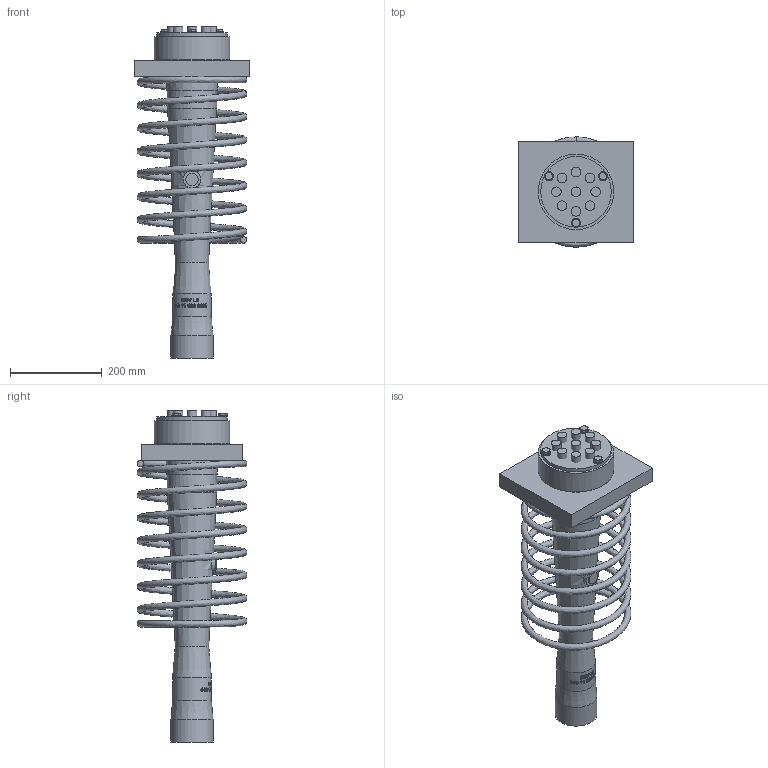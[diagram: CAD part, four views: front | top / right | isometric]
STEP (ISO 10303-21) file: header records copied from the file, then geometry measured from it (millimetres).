
FILE_DESCRIPTION(/* description */ (''),/* implementation_level */ '2;1');
FILE_NAME(/* name */ 'C:\Users\klukas\VAULT\CAD-Daten\Konstruktion\02a. Zusammenbau\Z-13.1-114 Typ i-Litzenspannverf. m. Verbund\Fe - L 9 flex.AK\Z-13.1-114.Fe.009.20 (Fe) L 9i flex.Abdeckkappe.stp',/* time_stamp */ '2023-08-23T14:38:08+02:00',/* author */ ('klukas'),/* organization */ (''),/* preprocessor_version */ 'ST-DEVELOPER v18.1',/* originating_system */ 'Autodesk Inventor 2021',/* authorisation */ '');
FILE_SCHEMA (('AUTOMOTIVE_DESIGN { 1 0 10303 214 3 1 1 }'));
Length unit declared in the file: millimetre
Products named in the file (1): Z-13.1-114.Fe.009.20 (Fe) L 9i flex.Abdeckkappe
Bounding box: 250 x 239.99 x 725 mm (x, y, z)
Volume: 5387358.8 mm3; surface area: 985734.7 mm2
Topology: 13 solids, 13 shells, 369 faces, 850 edges, 557 vertices
Faces by surface type: bspline 154, plane 121, cylinder 63, cone 31
Full cylindrical faces by diameter (mm): 10 x3, 14.63 x3, 20 x3, 21 x9, 27 x1, 38 x1, 78 x1, 85 x2, 92 x1, 100.558 x1, 107.558 x1, 111 x1, 113 x1, 145 x1, 154 x1, 160 x1, 165 x1
Entity records: 17184 total; most frequent: CARTESIAN_POINT 9344, ORIENTED_EDGE 1700, DIRECTION 1094, EDGE_CURVE 850, VERTEX_POINT 557, EDGE_LOOP 425, STYLED_ITEM 382, AXIS2_PLACEMENT_3D 373
